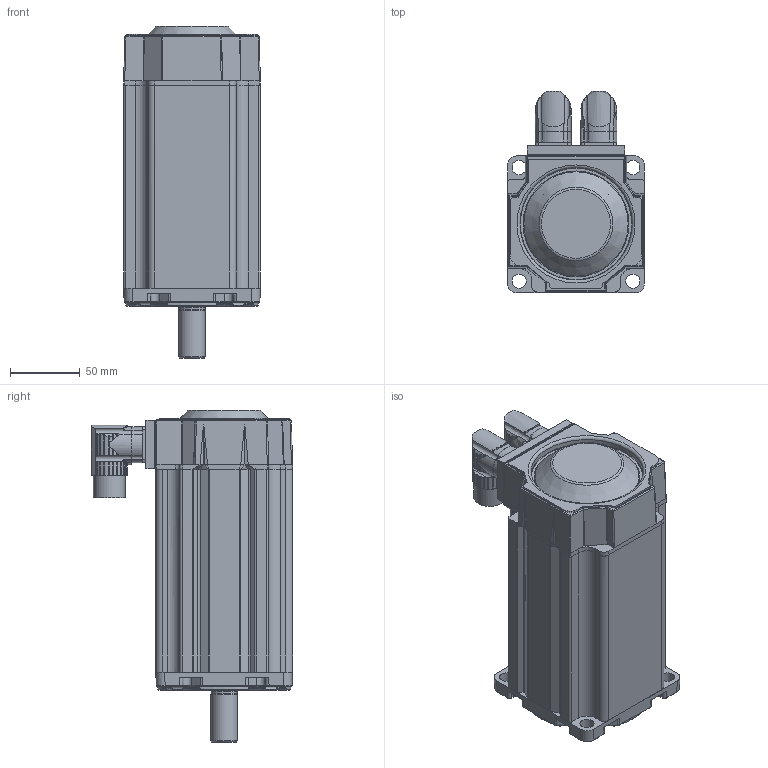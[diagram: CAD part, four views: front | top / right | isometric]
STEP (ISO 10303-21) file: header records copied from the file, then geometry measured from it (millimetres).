
FILE_DESCRIPTION((''),'2;1');
FILE_NAME('C:\CAD_work\Dummy_Modeling_Project_02-12-05\3D MODELS\MPP1002XXX_NPSB.stp','2005-12-20T17:06:02',('jevans'),(''),'Autodesk Inventor 10','Autodesk Inventor 10','');
FILE_SCHEMA(('AUTOMOTIVE_DESIGN { 1 0 10303 214 1 1 1 1 }'));
Length unit declared in the file: inch
Products named in the file (1): MPP100_MOTOR
Bounding box: 97.79 x 143.77 x 237.45 mm (x, y, z)
Volume: 1655563.1 mm3; surface area: 140107.9 mm2
Topology: 4 solids, 4 shells, 1043 faces, 2680 edges, 1680 vertices
Faces by surface type: bspline 341, cylinder 338, plane 258, cone 77, torus 21, sphere 8
Full cylindrical faces by diameter (mm): 1.016 x17, 1.956 x6, 2.362 x2, 18.644 x1, 18.999 x1, 19.05 x1, 19.66 x1, 19.939 x1, 19.99 x1, 22.86 x1, 25.4 x1, 40.005 x1, 51.511 x1, 51.994 x1, 52.019 x1, 52.261 x1, 55.143 x1, 60.325 x1, 80.366 x1
Entity records: 41628 total; most frequent: CARTESIAN_POINT 18595, ORIENTED_EDGE 5134, DIRECTION 4189, EDGE_CURVE 2567, VERTEX_POINT 1656, AXIS2_PLACEMENT_3D 1629, EDGE_LOOP 1193, FACE_OUTER_BOUND 1043
